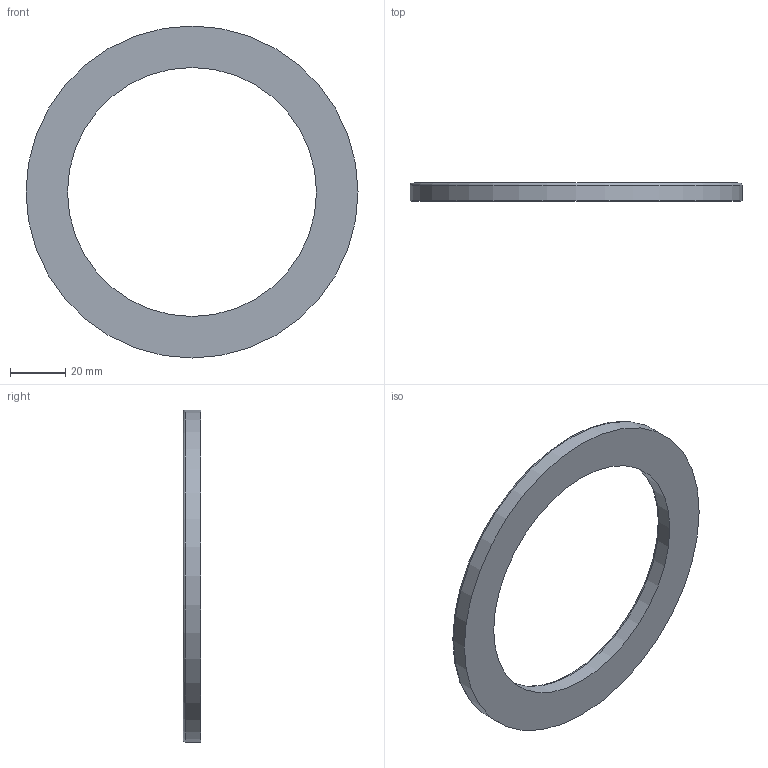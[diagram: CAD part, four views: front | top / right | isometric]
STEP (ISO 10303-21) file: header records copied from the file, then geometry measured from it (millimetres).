
FILE_DESCRIPTION(/* description */ (''),/* implementation_level */ '2;1');
FILE_NAME(/* name */ 'D:\moje\parametrické\Axiálne valčekové lo\X2\017E\X0\iská\811--\WS811--\WS81118.stp',/* time_stamp */ '2016-09-27T08:57:19+02:00',/* author */ ('OUBALASKO'),/* organization */ (''),/* preprocessor_version */ 'ST-DEVELOPER v15.6',/* originating_system */ 'Autodesk Inventor 2015',/* authorisation */ '');
FILE_SCHEMA (('AUTOMOTIVE_DESIGN { 1 0 10303 214 3 1 1 }'));
Length unit declared in the file: millimetre
Products named in the file (1): WS81118
Bounding box: 120 x 6.5 x 120 mm (x, y, z)
Volume: 32020.5 mm3; surface area: 13901.1 mm2
Topology: 1 solids, 1 shells, 6 faces, 10 edges, 6 vertices
Faces by surface type: plane 2, cylinder 2, torus 2
Full cylindrical faces by diameter (mm): 90 x1, 120 x1
Entity records: 152 total; most frequent: DIRECTION 26, CARTESIAN_POINT 19, AXIS2_PLACEMENT_3D 13, EDGE_LOOP 12, ORIENTED_EDGE 12, FACE_BOUND 6, FACE_OUTER_BOUND 6, CIRCLE 6
